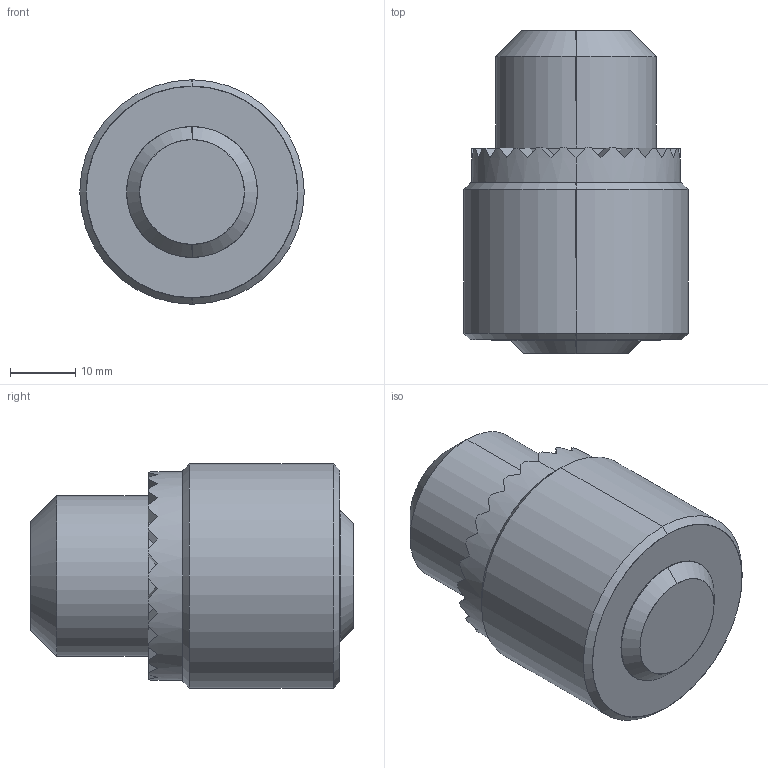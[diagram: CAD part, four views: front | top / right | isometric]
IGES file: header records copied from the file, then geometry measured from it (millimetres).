
Start section: SolidWorks IGES file using analytic representation for surfaces
Global section: file name: R:\Inventor\Kundmodeller Solidworks\Chuckar\041J004002 keychuck 0,8-10mm.IGS; native system: SolidWorks 2008; preprocessor: SolidWorks 2008; author: Johan; date: 090903.160005; units: centimetre
Bounding box: 34.3 x 49.4 x 34.3 mm (x, y, z)
Surface area: 6977.1 mm2 (no closed solid volume)
Topology: 0 solids, 0 shells, 129 faces, 1005 edges, 1003 vertices
Faces by surface type: bspline 109, revolution 20
